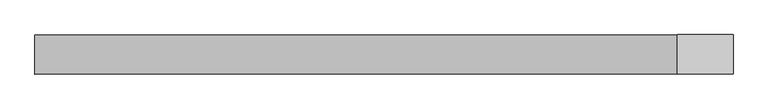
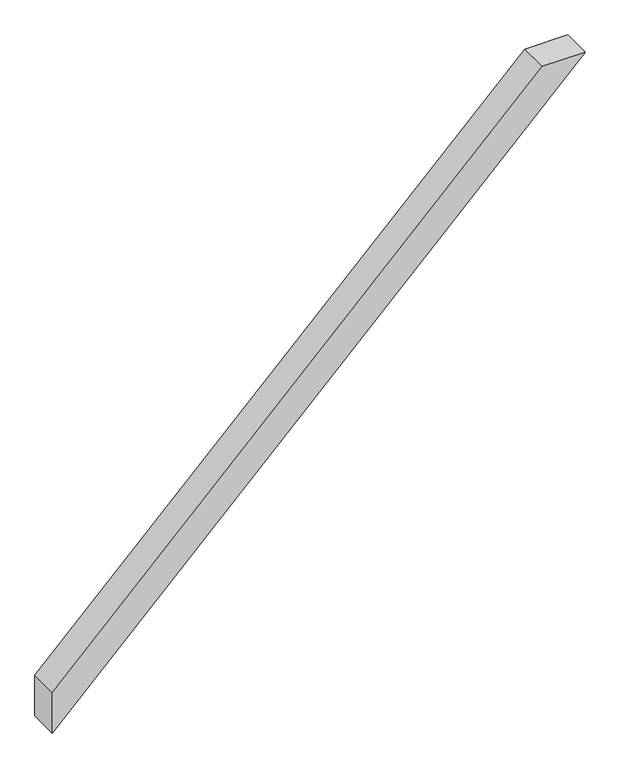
"""IFC4 building model written with IfcOpenShell, lengths in millimetres: proxy geometry, Modelos genéricos 62 : Modelos genéricos 23."""

from ifc_helpers import new_model, si_unit, frame, origin, place, context, project, spatial, polyline, outline, extrude, source, transform, mapped, element, save


def generic_models_2b767ad5(model_context):
    return source(origin(), model_context, "Body", "SweptSolid", [
        extrude(outline(polyline([(4220.0, -4256.7628093), (4220.0, -4341.615623), (3244.8528137, -5316.7628093), (3160.0, -5316.7628093), (4220.0, -4256.7628093)])), frame((0.0, 1918.6238165, 0.0), z_axis=(0.0, 1.0, 0.0), x_axis=(0.0, 0.0, 1.0)), (0.0, 0.0, 1.0), 60.0),
    ])


if __name__ == "__main__":
    model = new_model("IFC4")
    model_context = context("Model", 3, world=origin())
    ifc_project = project(units=[si_unit("LENGTHUNIT", "METRE", prefix="MILLI")], contexts=[model_context])
    site = spatial("IfcSite", under=ifc_project)
    building = spatial("IfcBuilding", under=site)
    placement = place(None, origin())
    generic_models_shape = generic_models_2b767ad5(model_context)
    element("IfcBuildingElementProxy", 1, Name="Modelos genéricos 62 : Modelos genéricos 23", ObjectType="Modelos genéricos 62 : Modelos genéricos 23", at=placement, inside=building, context=model_context, shape_type="MappedRepresentation", body=[
        mapped(generic_models_shape, transform((0.0, 0.0, 0.0), x_axis=(1.0, 0.0, 0.0), y_axis=(0.0, 1.0, 0.0), z_axis=(0.0, 0.0, 1.0))),
    ])
    save(model, "model.ifc")
